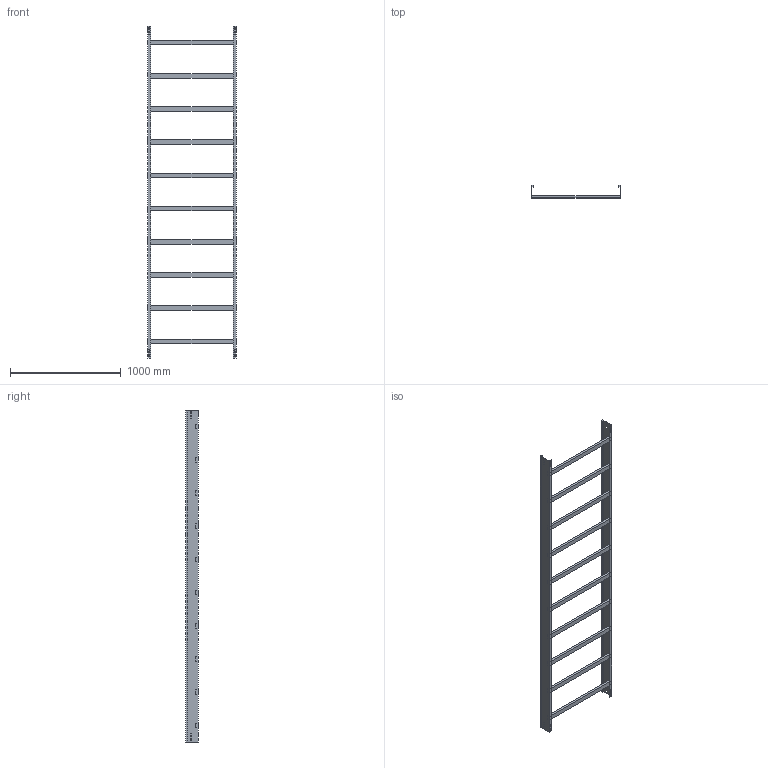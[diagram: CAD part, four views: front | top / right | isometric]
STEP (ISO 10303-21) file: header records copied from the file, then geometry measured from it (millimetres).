
FILE_DESCRIPTION (( 'STEP AP214' ), '1' );
FILE_NAME ('01B3J800.step', '2025-02-21T16:00:32', ( '' ), ( '' ), 'SwSTEP 2.0', 'SolidWorks 2023', '' );
FILE_SCHEMA (( 'AUTOMOTIVE_DESIGN' ));
Length unit declared in the file: millimetre
Products named in the file (3): LONGH.H112.5; TRAVERSINO_800; 01B3J800
Assembly tree (12 placements, depth 2):
  01B3J800
    LONGH.H112.5  x2
    TRAVERSINO_800  x10
Bounding box: 800 x 112.5 x 3000 mm (x, y, z)
Volume: 9244672 mm3; surface area: 2844156 mm2
Topology: 12 solids, 12 shells, 144 faces, 360 edges, 240 vertices
Faces by surface type: plane 144
Entity records: 1696 total; most frequent: CARTESIAN_POINT 283, ORIENTED_EDGE 264, DIRECTION 258, EDGE_CURVE 132, LINE 132, VECTOR 132, VERTEX_POINT 88, EDGE_LOOP 64
